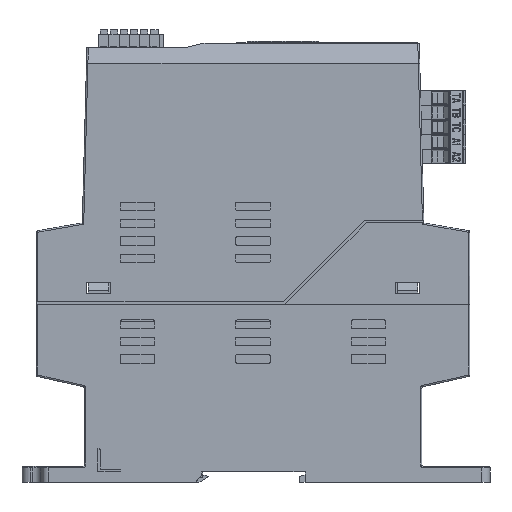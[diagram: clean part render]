
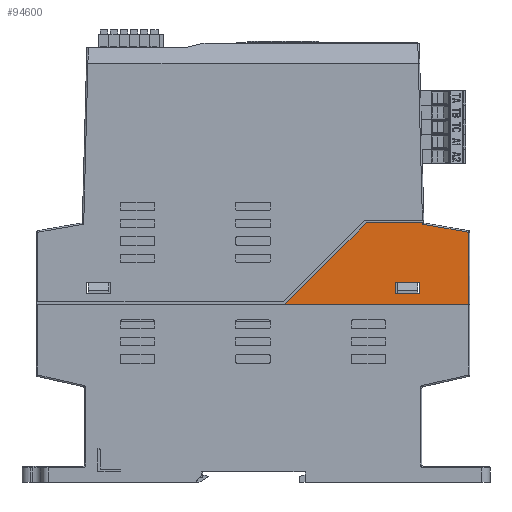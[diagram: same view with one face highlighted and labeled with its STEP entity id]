
A CAD part, left-side view. The second image highlights one B-rep face of the part: STEP entity #94600.
In plain terms, the highlighted planar face has unit normal (-1, 0, 0).
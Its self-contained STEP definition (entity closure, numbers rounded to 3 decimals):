
#1225 = AXIS2_PLACEMENT_3D ( 'NONE', #5149, #74673, #113961 ) ;
#2583 = ORIENTED_EDGE ( 'NONE', *, *, #113276, .T. ) ;
#5149 = CARTESIAN_POINT ( 'NONE',  ( -27.5, 75., 0. ) ) ;
#9147 = VECTOR ( 'NONE', #11547, 1000. ) ;
#11547 = DIRECTION ( 'NONE',  ( 0., 0.985, 0.174 ) ) ;
#12877 = EDGE_CURVE ( 'NONE', #46480, #123130, #47563, .T. ) ;
#14169 = VERTEX_POINT ( 'NONE', #111604 ) ;
#18411 = EDGE_LOOP ( 'NONE', ( #54317, #170199, #57944, #58643, #99415, #126296 ) ) ;
#18619 = VERTEX_POINT ( 'NONE', #91894 ) ;
#19394 = CARTESIAN_POINT ( 'NONE',  ( -27.5, -58.633, 95.658 ) ) ;
#21401 = EDGE_CURVE ( 'NONE', #116551, #18619, #80191, .T. ) ;
#28175 = DIRECTION ( 'NONE',  ( 0., 1., 0. ) ) ;
#28342 = CARTESIAN_POINT ( 'NONE',  ( -27.5, -39.129, 95.799 ) ) ;
#29424 = CARTESIAN_POINT ( 'NONE',  ( -27.5, -49.4, 75.2 ) ) ;
#35330 = DIRECTION ( 'NONE',  ( 0., -1., 0. ) ) ;
#36965 = ORIENTED_EDGE ( 'NONE', *, *, #140354, .T. ) ;
#37107 = LINE ( 'NONE', #105800, #162805 ) ;
#37793 = DIRECTION ( 'NONE',  ( 0., 0.707, -0.707 ) ) ;
#41569 = LINE ( 'NONE', #108491, #41697 ) ;
#41697 = VECTOR ( 'NONE', #28175, 1000. ) ;
#41785 = VECTOR ( 'NONE', #63371, 1000. ) ;
#42801 = VECTOR ( 'NONE', #37793, 1000. ) ;
#46480 = VERTEX_POINT ( 'NONE', #73022 ) ;
#47563 = LINE ( 'NONE', #88573, #154209 ) ;
#47936 = CARTESIAN_POINT ( 'NONE',  ( -27.5, -58.64, 95.378 ) ) ;
#51176 = CARTESIAN_POINT ( 'NONE',  ( -27.5, -39.129, 95.799 ) ) ;
#52136 = VECTOR ( 'NONE', #35330, 1000. ) ;
#52239 = DIRECTION ( 'NONE',  ( 0., 1., 0. ) ) ;
#54317 = ORIENTED_EDGE ( 'NONE', *, *, #119154, .T. ) ;
#57944 = ORIENTED_EDGE ( 'NONE', *, *, #114917, .T. ) ;
#58308 = DIRECTION ( 'NONE',  ( 0., 0., 1. ) ) ;
#58643 = ORIENTED_EDGE ( 'NONE', *, *, #133687, .T. ) ;
#63371 = DIRECTION ( 'NONE',  ( 0., -1., 0. ) ) ;
#69790 = CARTESIAN_POINT ( 'NONE',  ( -27.5, -10.83, 67.5 ) ) ;
#73022 = CARTESIAN_POINT ( 'NONE',  ( -27.5, -49.4, 71.3 ) ) ;
#73806 = CARTESIAN_POINT ( 'NONE',  ( -27.5, -58.637, 95.518 ) ) ;
#74673 = DIRECTION ( 'NONE',  ( -1., 0., 0. ) ) ;
#75384 = LINE ( 'NONE', #102164, #144453 ) ;
#75427 = VERTEX_POINT ( 'NONE', #163041 ) ;
#75439 = VECTOR ( 'NONE', #152908, 1000. ) ;
#80191 = LINE ( 'NONE', #133763, #9147 ) ;
#85955 = LINE ( 'NONE', #115362, #75439 ) ;
#88573 = CARTESIAN_POINT ( 'NONE',  ( -27.5, -49.4, 0. ) ) ;
#88660 = CARTESIAN_POINT ( 'NONE',  ( -27.5, -74.5, 92.581 ) ) ;
#89810 = CARTESIAN_POINT ( 'NONE',  ( -27.5, -58.629, 95.799 ) ) ;
#90912 = EDGE_CURVE ( 'NONE', #123130, #75427, #165965, .T. ) ;
#91894 = CARTESIAN_POINT ( 'NONE',  ( -27.5, -58.64, 95.378 ) ) ;
#93896 = CARTESIAN_POINT ( 'NONE',  ( -27.5, -57.6, 71.3 ) ) ;
#94600 = ADVANCED_FACE ( 'NONE', ( #102314, #156769 ), #144256, .T. ) ;
#95628 = EDGE_CURVE ( 'NONE', #14169, #18619, #165252, .T. ) ;
#99178 = ORIENTED_EDGE ( 'NONE', *, *, #12877, .T. ) ;
#99415 = ORIENTED_EDGE ( 'NONE', *, *, #21401, .T. ) ;
#102164 = CARTESIAN_POINT ( 'NONE',  ( -27.5, -74.5, 67.5 ) ) ;
#102314 = FACE_BOUND ( 'NONE', #140755, .T. ) ;
#102843 = VERTEX_POINT ( 'NONE', #138425 ) ;
#105800 = CARTESIAN_POINT ( 'NONE',  ( -27.5, 75., 71.3 ) ) ;
#108491 = CARTESIAN_POINT ( 'NONE',  ( -27.5, 75., 95.799 ) ) ;
#111604 = CARTESIAN_POINT ( 'NONE',  ( -27.5, -58.629, 95.799 ) ) ;
#113276 = EDGE_CURVE ( 'NONE', #75427, #162389, #85955, .T. ) ;
#113961 = DIRECTION ( 'NONE',  ( 0., 0., 1. ) ) ;
#114917 = EDGE_CURVE ( 'NONE', #166405, #102843, #145460, .T. ) ;
#115362 = CARTESIAN_POINT ( 'NONE',  ( -27.5, -57.6, 0. ) ) ;
#116537 = CARTESIAN_POINT ( 'NONE',  ( -27.5, 75., 75.2 ) ) ;
#116551 = VERTEX_POINT ( 'NONE', #88660 ) ;
#119154 = EDGE_CURVE ( 'NONE', #14169, #167348, #41569, .T. ) ;
#123130 = VERTEX_POINT ( 'NONE', #29424 ) ;
#126296 = ORIENTED_EDGE ( 'NONE', *, *, #95628, .F. ) ;
#129867 = DIRECTION ( 'NONE',  ( 0., 0., 1. ) ) ;
#133687 = EDGE_CURVE ( 'NONE', #102843, #116551, #75384, .T. ) ;
#133763 = CARTESIAN_POINT ( 'NONE',  ( -27.5, -74.5, 92.581 ) ) ;
#138425 = CARTESIAN_POINT ( 'NONE',  ( -27.5, -74.5, 67.5 ) ) ;
#140354 = EDGE_CURVE ( 'NONE', #162389, #46480, #37107, .T. ) ;
#140755 = EDGE_LOOP ( 'NONE', ( #164319, #2583, #36965, #99178 ) ) ;
#144256 = PLANE ( 'NONE',  #1225 ) ;
#144453 = VECTOR ( 'NONE', #129867, 1000. ) ;
#145460 = LINE ( 'NONE', #160624, #41785 ) ;
#152908 = DIRECTION ( 'NONE',  ( 0., 0., -1. ) ) ;
#154209 = VECTOR ( 'NONE', #58308, 1000. ) ;
#156769 = FACE_OUTER_BOUND ( 'NONE', #18411, .T. ) ;
#160624 = CARTESIAN_POINT ( 'NONE',  ( -27.5, -101.303, 67.5 ) ) ;
#162389 = VERTEX_POINT ( 'NONE', #93896 ) ;
#162805 = VECTOR ( 'NONE', #52239, 1000. ) ;
#163041 = CARTESIAN_POINT ( 'NONE',  ( -27.5, -57.6, 75.2 ) ) ;
#164319 = ORIENTED_EDGE ( 'NONE', *, *, #90912, .T. ) ;
#165252 = B_SPLINE_CURVE_WITH_KNOTS ( 'NONE', 3,
 ( #89810, #19394, #73806, #47936 ),
 .UNSPECIFIED., .F., .F.,
 ( 4, 4 ),
 ( 0., 1. ),
 .UNSPECIFIED. ) ;
#165965 = LINE ( 'NONE', #116537, #52136 ) ;
#166405 = VERTEX_POINT ( 'NONE', #69790 ) ;
#167348 = VERTEX_POINT ( 'NONE', #28342 ) ;
#170199 = ORIENTED_EDGE ( 'NONE', *, *, #173052, .T. ) ;
#173052 = EDGE_CURVE ( 'NONE', #167348, #166405, #173442, .T. ) ;
#173442 = LINE ( 'NONE', #51176, #42801 ) ;
